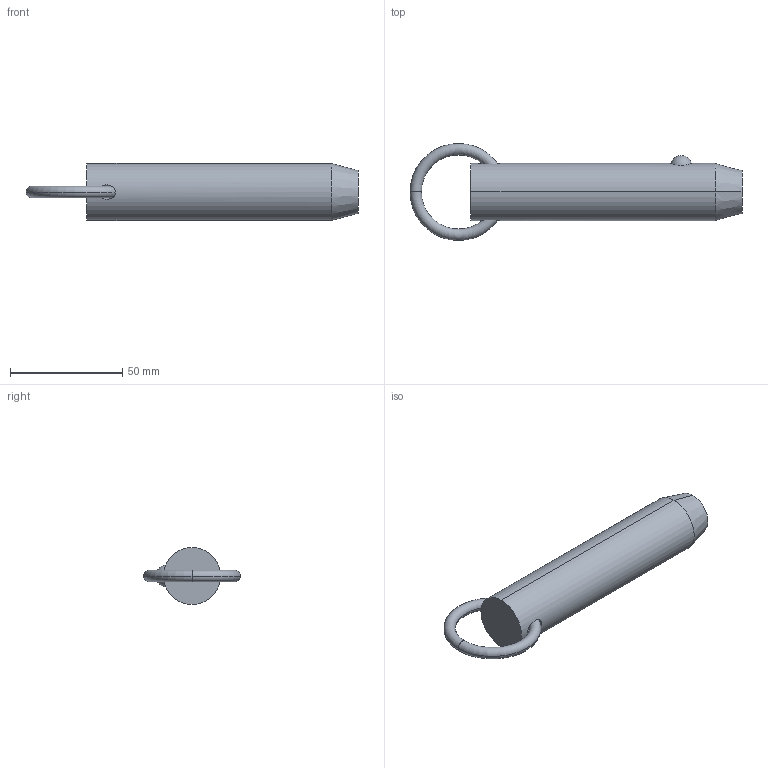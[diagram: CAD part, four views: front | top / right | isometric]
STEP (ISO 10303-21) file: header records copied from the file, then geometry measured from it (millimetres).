
FILE_DESCRIPTION (( 'STEP AP203' ), '1' );
FILE_NAME ('33010.W1030.step', '2024-11-01T10:47:45', ( '' ), ( '' ), 'SwSTEP 2.0', 'SolidWorks 2019', '' );
FILE_SCHEMA (( 'CONFIG_CONTROL_DESIGN' ));
Length unit declared in the file: millimetre
Products named in the file (3): 33010.W1030; Part1_33010.W1030; Part2_33010.W1030
Assembly tree (2 placements, depth 2):
  33010.W1030
    Part1_33010.W1030
    Part2_33010.W1030
Bounding box: 147.78 x 43.18 x 25.4 mm (x, y, z)
Volume: 61470 mm3; surface area: 12751.9 mm2
Topology: 2 solids, 2 shells, 18 faces, 37 edges, 22 vertices
Faces by surface type: torus 8, plane 4, sphere 2, cone 2, cylinder 2
Entity records: 975 total; most frequent: CARTESIAN_POINT 280, DIRECTION 100, ORIENTED_EDGE 74, AXIS2_PLACEMENT_3D 48, EDGE_CURVE 37, PERSON_AND_ORGANIZATION 26, CIRCLE 25, VERTEX_POINT 22
